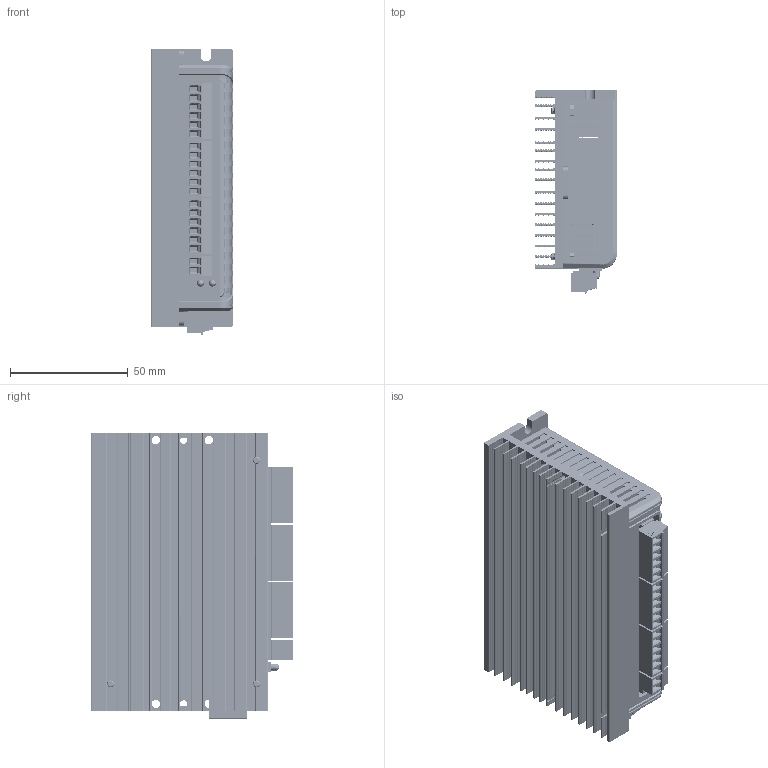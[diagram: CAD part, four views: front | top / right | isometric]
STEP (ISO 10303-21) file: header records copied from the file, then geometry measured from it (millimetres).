
FILE_DESCRIPTION(('STEP AP214'), '1');
FILE_NAME('ﾄ鰾褞 LK-D508', '', ('UNSPECIFIED'), ('UNSPECIFIED'), 'C3D Converter', 'C3D Toolkit', '');
FILE_SCHEMA(('AUTOMOTIVE_DESIGN { 1 0 10303 214 3 1 1}'));
Length unit declared in the file: millimetre
Products named in the file (14): M3; 3.81 4way; 2HSS57РВёЗЧУ; 3.81-2B; 57ЙўИИЖч; 57PCB; 3.81-6B; Dip_Switch_Piano_8ways; two led; MicroUSB-B; 2О»3.81¶ЛЧУ; 6О»3.81¶ЛЧУ; 3.81-4
Assembly tree (19 placements, depth 2):
  (unnamed)
    M3  x3
    3.81 4way
    2HSS57РВёЗЧУ
    3.81-2B
    57ЙўИИЖч
    57PCB
    3.81-6B  x3
    Dip_Switch_Piano_8ways
    two led
    MicroUSB-B
    2О»3.81¶ЛЧУ
    6О»3.81¶ЛЧУ  x3
    3.81-4
Bounding box: 35 x 86.13 x 121.35 mm (x, y, z)
Volume: 106221.7 mm3; surface area: 120721.3 mm2
Topology: 18 solids, 35 shells, 9650 faces, 26525 edges, 17486 vertices
Faces by surface type: plane 5227, extrusion 2599, cylinder 1529, cone 84, torus 81, bspline 76, sphere 54
Full cylindrical faces by diameter (mm): 0.457 x10, 1.2 x24, 1.25 x24, 1.6 x38, 2.8 x24, 2.9 x24, 3 x11, 3.5 x7
Entity records: 339950 total; most frequent: CARTESIAN_POINT 81861, ORIENTED_EDGE 43964, DIRECTION 31422, EDGE_CURVE 22046, VECTOR 16410, VERTEX_POINT 14644, LINE 13811, B_SPLINE_CURVE_WITH_KNOTS 8589
